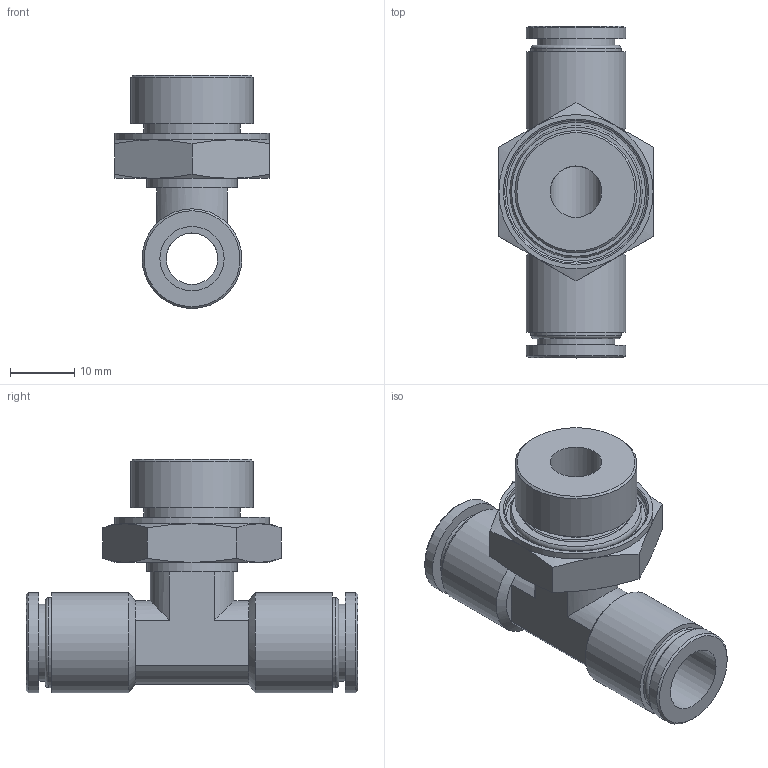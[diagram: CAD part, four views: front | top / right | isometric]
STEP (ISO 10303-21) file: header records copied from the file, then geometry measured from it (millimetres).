
FILE_DESCRIPTION(/* description */ (''),/* implementation_level */ '2;1');
FILE_NAME(/* name */ 'LXH38 0010 B4.stp',/* time_stamp */ '2026-04-25T14:38:46+02:00',/* author */ ('freju'),/* organization */ (''),/* preprocessor_version */ 'ST-DEVELOPER v20.1',/* originating_system */ 'Autodesk Inventor 2026',/* authorisation */ '');
FILE_SCHEMA (('AUTOMOTIVE_DESIGN { 1 0 10303 214 3 1 1 }'));
Length unit declared in the file: millimetre
Products named in the file (4): LXH38 0010 B4; LXH38 0010 B4_1; O-Ring; ISO 3601-1 - A 0170 G
Assembly tree (3 placements, depth 3):
  LXH38 0010 B4
    LXH38 0010 B4_1
    O-Ring
      ISO 3601-1 - A 0170 G
Bounding box: 24 x 51.6 x 36.25 mm (x, y, z)
Volume: 9978 mm3; surface area: 7772.6 mm2
Topology: 2 solids, 2 shells, 79 faces, 162 edges, 100 vertices
Faces by surface type: plane 31, cylinder 23, cone 17, torus 8
Full cylindrical faces by diameter (mm): 8 x2, 10 x2, 12 x2, 14 x3, 15 x1, 15.5 x4, 17 x1, 19 x1, 22.2 x1, 24 x1
Entity records: 2226 total; most frequent: DIRECTION 402, CARTESIAN_POINT 396, ORIENTED_EDGE 324, AXIS2_PLACEMENT_3D 178, EDGE_CURVE 162, VERTEX_POINT 100, EDGE_LOOP 98, CIRCLE 88
